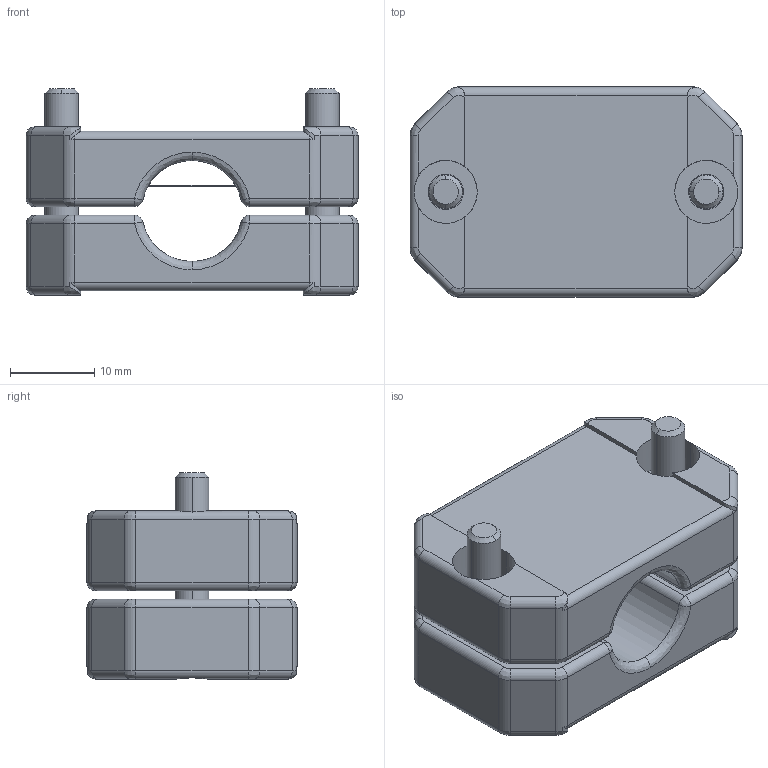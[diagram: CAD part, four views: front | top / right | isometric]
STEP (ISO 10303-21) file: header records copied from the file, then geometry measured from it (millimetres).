
FILE_DESCRIPTION (( 'STEP AP203' ), '1' );
FILE_NAME ('75003005 Schalterhalter - stepp.STEP', '2016-11-02T15:12:50', ( '' ), ( '' ), 'SwSTEP 2.0', 'SolidWorks 2015', '' );
FILE_SCHEMA (( 'CONFIG_CONTROL_DESIGN' ));
Length unit declared in the file: millimetre
Products named in the file (1): 75003005 Schalterhalter - stepp
Bounding box: 39.5 x 25 x 24.51 mm (x, y, z)
Volume: 14184.1 mm3; surface area: 7165.7 mm2
Topology: 1 solids, 1 shells, 229 faces, 564 edges, 339 vertices
Faces by surface type: cylinder 101, plane 62, bspline 58, cone 8
Entity records: 8252 total; most frequent: CARTESIAN_POINT 3061, ORIENTED_EDGE 1128, DIRECTION 1025, EDGE_CURVE 564, AXIS2_PLACEMENT_3D 391, VERTEX_POINT 339, VECTOR 243, EDGE_LOOP 243
